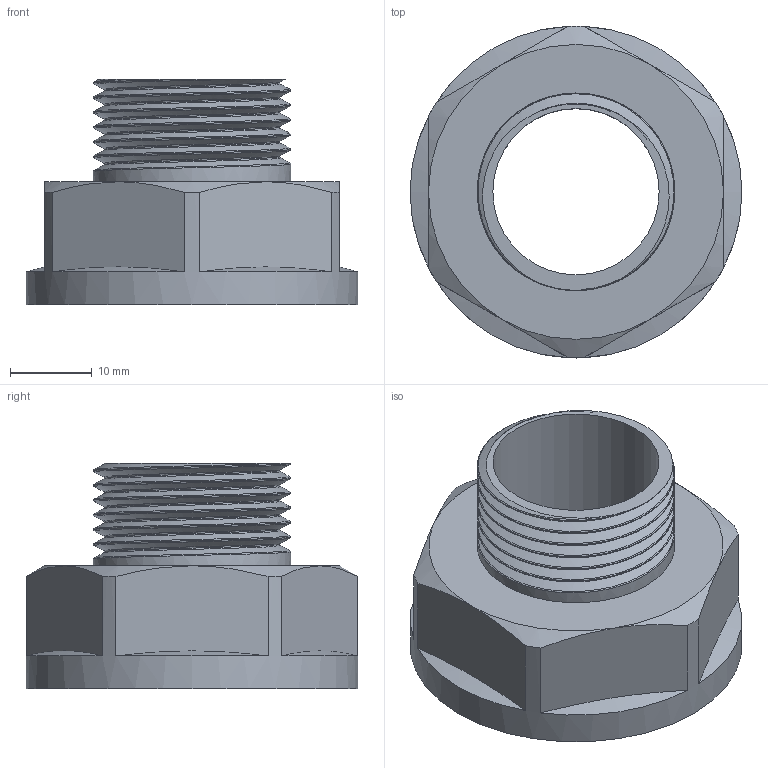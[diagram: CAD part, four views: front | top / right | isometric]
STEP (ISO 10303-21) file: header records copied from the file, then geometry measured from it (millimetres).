
FILE_DESCRIPTION(/* description */ (''),/* implementation_level */ '2;1');
FILE_NAME(/* name */ 'C:\Users\Doom\Desktop\Фадотех\Резьба\P02 18.03.2020\P02 18.03.2020.stp',/* time_stamp */ '2022-01-11T23:02:36+02:00',/* author */ ('Doom'),/* organization */ (''),/* preprocessor_version */ 'ST-DEVELOPER v18',/* originating_system */ 'Autodesk Inventor 2020',/* authorisation */ '');
FILE_SCHEMA (('AUTOMOTIVE_DESIGN { 1 0 10303 214 3 1 1 }'));
Length unit declared in the file: millimetre
Products named in the file (1): P02 18.03.2020
Bounding box: 40.5 x 40.5 x 27.5 mm (x, y, z)
Volume: 7672.4 mm3; surface area: 8730.5 mm2
Topology: 1 solids, 1 shells, 52 faces, 144 edges, 97 vertices
Faces by surface type: cylinder 16, plane 12, bspline 12, cone 12
Full cylindrical faces by diameter (mm): 20.3 x1, 24.1 x6, 31.165 x4, 34.589 x1, 40.5 x1
Entity records: 7595 total; most frequent: CARTESIAN_POINT 6389, ORIENTED_EDGE 288, DIRECTION 186, EDGE_CURVE 144, VERTEX_POINT 97, AXIS2_PLACEMENT_3D 78, EDGE_LOOP 57, B_SPLINE_CURVE_WITH_KNOTS 53
